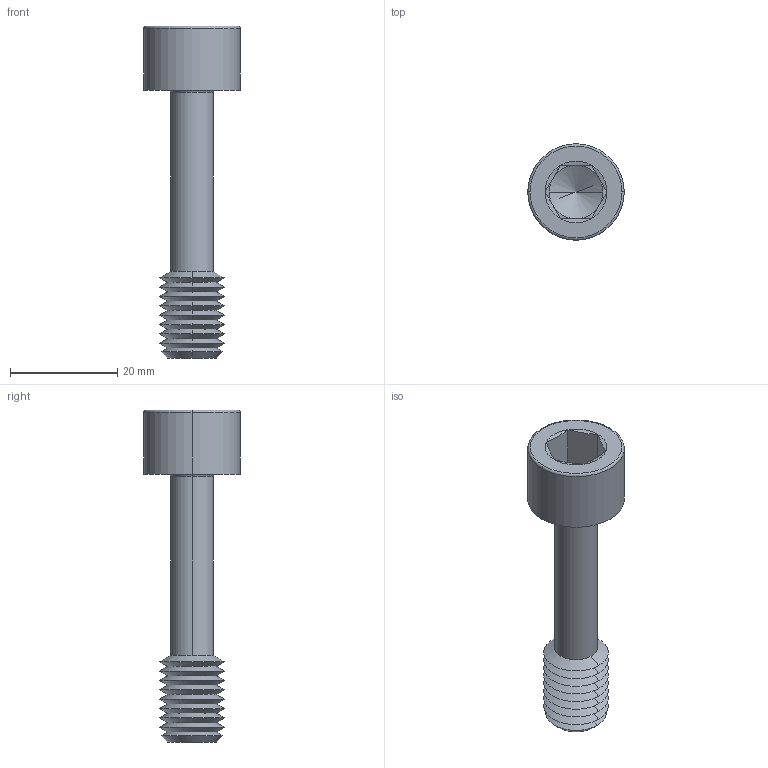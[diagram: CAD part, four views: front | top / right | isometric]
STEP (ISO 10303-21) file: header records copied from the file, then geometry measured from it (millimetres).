
FILE_DESCRIPTION (( 'STEP AP203' ), '1' );
FILE_NAME ('P0154.120-050-BL.step', '2024-06-17T11:36:57', ( '' ), ( '' ), 'SwSTEP 2.0', 'SolidWorks 2019', '' );
FILE_SCHEMA (( 'CONFIG_CONTROL_DESIGN' ));
Length unit declared in the file: millimetre
Products named in the file (1): P0154.120-050-BL
Bounding box: 18 x 18 x 62 mm (x, y, z)
Volume: 5196.3 mm3; surface area: 3425.3 mm2
Topology: 1 solids, 1 shells, 67 faces, 136 edges, 71 vertices
Faces by surface type: cone 44, plane 15, torus 4, cylinder 4
Entity records: 1791 total; most frequent: DIRECTION 332, CARTESIAN_POINT 303, ORIENTED_EDGE 268, AXIS2_PLACEMENT_3D 136, EDGE_CURVE 134, VERTEX_POINT 71, EDGE_LOOP 69, CIRCLE 68
